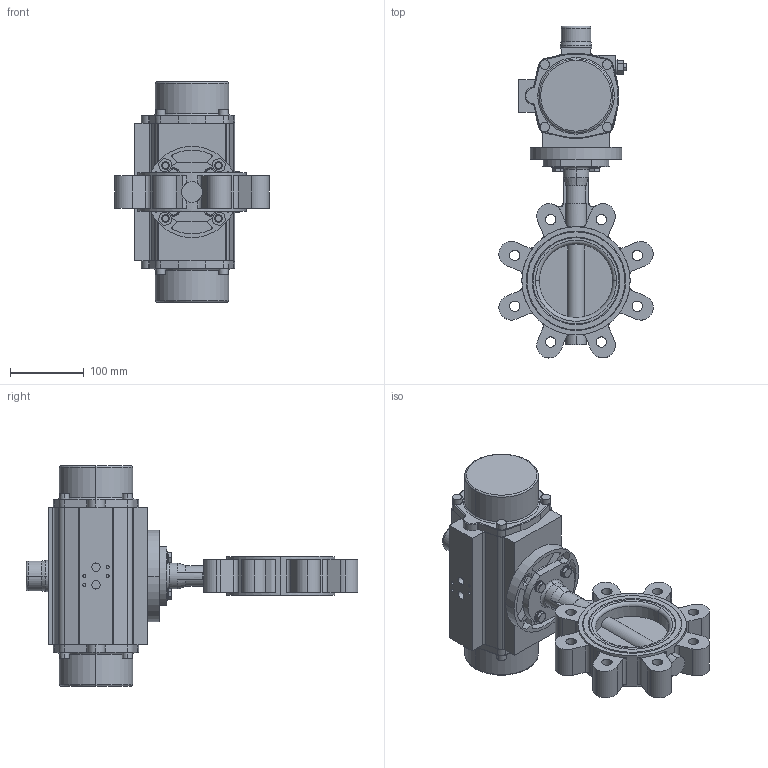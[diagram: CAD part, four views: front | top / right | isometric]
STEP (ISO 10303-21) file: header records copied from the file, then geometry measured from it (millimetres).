
FILE_DESCRIPTION (( 'STEP AP214' ), '1' );
FILE_NAME ('67344.step', '2020-10-23T12:37:56', ( '' ), ( '' ), 'SwSTEP 2.0', 'SolidWorks 2019', '' );
FILE_SCHEMA (( 'AUTOMOTIVE_DESIGN' ));
Length unit declared in the file: millimetre
Products named in the file (8): 6kt-Schr DIN 933_M8x40; 67335_15x15x2 - L=16; U-Scheibe DIN 125 A_M8; TL20-0100_M01; Achtkantreduktion 17-11 mm; Flanschadapter F07-F10; SR0200-V17_02; 67344
Assembly tree (13 placements, depth 2):
  67344
    TL20-0100_M01
    SR0200-V17_02
    U-Scheibe DIN 125 A_M8  x4
    6kt-Schr DIN 933_M8x40  x4
    Achtkantreduktion 17-11 mm
    Flanschadapter F07-F10
    67335_15x15x2 - L=16
Bounding box: 209.52 x 450.76 x 299 mm (x, y, z)
Volume: 4908420.5 mm3; surface area: 387539.7 mm2
Topology: 15 solids, 15 shells, 800 faces, 1969 edges, 1263 vertices
Faces by surface type: plane 375, cylinder 315, cone 52, torus 46, bspline 12
Entity records: 26234 total; most frequent: CARTESIAN_POINT 4915, DIRECTION 3858, ORIENTED_EDGE 3530, EDGE_CURVE 1765, AXIS2_PLACEMENT_3D 1460, VERTEX_POINT 1143, LINE 938, VECTOR 938
